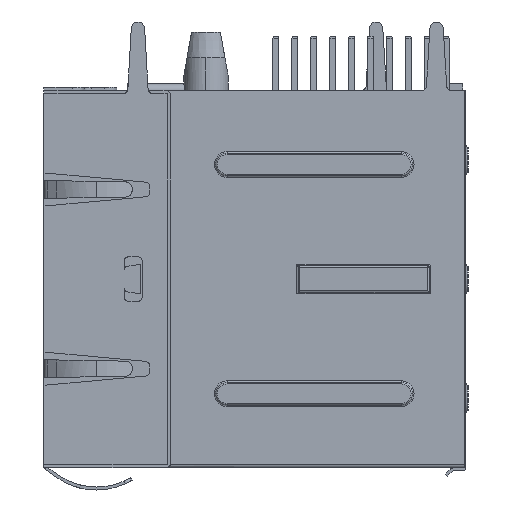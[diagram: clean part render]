
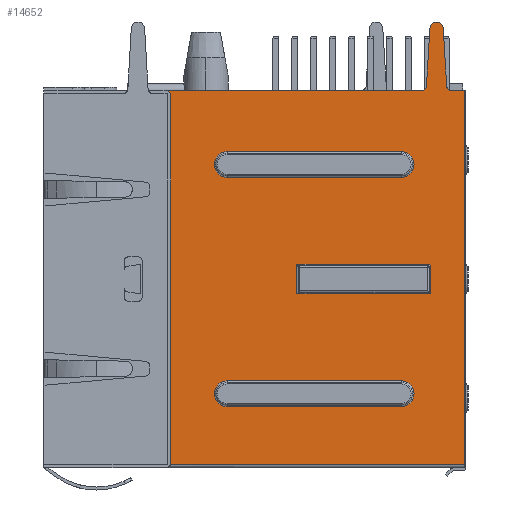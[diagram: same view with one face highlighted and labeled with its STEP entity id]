
A CAD part, left-side view. The second image highlights one B-rep face of the part: STEP entity #14652.
In plain terms, the highlighted planar face has unit normal (-1, 0, 0).
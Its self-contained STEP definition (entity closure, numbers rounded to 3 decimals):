
#956=DIRECTION('',(0.,1.,0.));
#957=VECTOR('',#956,17.191);
#958=CARTESIAN_POINT('',(-8.605,-11.151,12.67));
#959=LINE('',#958,#957);
#960=CARTESIAN_POINT('',(-8.605,-11.151,12.97));
#961=DIRECTION('',(1.,0.,0.));
#962=DIRECTION('',(0.,-0.998,-0.059));
#963=AXIS2_PLACEMENT_3D('',#960,#961,#962);
#965=DIRECTION('',(0.,0.059,-0.998));
#966=VECTOR('',#965,3.901);
#967=CARTESIAN_POINT('',(-8.605,-11.681,16.847));
#968=LINE('',#967,#966);
#969=CARTESIAN_POINT('',(-8.605,-12.13,16.82));
#970=DIRECTION('',(-1.,0.,0.));
#971=DIRECTION('',(0.,0.,1.));
#972=AXIS2_PLACEMENT_3D('',#969,#970,#971);
#974=CARTESIAN_POINT('',(-8.605,-12.13,16.82));
#975=DIRECTION('',(-1.,0.,0.));
#976=DIRECTION('',(0.,-0.998,0.059));
#977=AXIS2_PLACEMENT_3D('',#974,#975,#976);
#979=DIRECTION('',(0.,0.059,0.998));
#980=VECTOR('',#979,3.901);
#981=CARTESIAN_POINT('',(-8.605,-12.81,12.952));
#982=LINE('',#981,#980);
#983=CARTESIAN_POINT('',(-8.605,-13.109,12.97));
#984=DIRECTION('',(1.,0.,0.));
#985=DIRECTION('',(0.,0.,-1.));
#986=AXIS2_PLACEMENT_3D('',#983,#984,#985);
#988=DIRECTION('',(0.,1.,0.));
#989=VECTOR('',#988,0.891);
#990=CARTESIAN_POINT('',(-8.605,-14.,12.67));
#991=LINE('',#990,#989);
#992=CARTESIAN_POINT('',(-8.605,6.04,-12.37));
#993=DIRECTION('',(1.,0.,0.));
#994=DIRECTION('',(0.,-1.,0.));
#995=AXIS2_PLACEMENT_3D('',#992,#993,#994);
#997=CARTESIAN_POINT('',(-8.605,6.04,12.37));
#998=DIRECTION('',(1.,0.,0.));
#999=DIRECTION('',(0.,0.,1.));
#1000=AXIS2_PLACEMENT_3D('',#997,#998,#999);
#1002=CARTESIAN_POINT('',(-8.605,-11.723,
0.9));
#1003=CARTESIAN_POINT('',(-8.605,-11.729,
0.89));
#1004=CARTESIAN_POINT('',(-8.605,-11.739,
0.869));
#1005=CARTESIAN_POINT('',(-8.605,-11.748,
0.835));
#1006=CARTESIAN_POINT('',(-8.605,-11.75,
0.812));
#1007=CARTESIAN_POINT('',(-8.605,-11.75,
0.8));
#1009=CARTESIAN_POINT('',(-8.605,-11.55,0.8));
#1010=DIRECTION('',(1.,0.,0.));
#1011=DIRECTION('',(0.,0.,1.));
#1012=AXIS2_PLACEMENT_3D('',#1009,#1010,#1011);
#1014=CARTESIAN_POINT('',(-8.605,1.94,7.7));
#1015=DIRECTION('',(1.,0.,0.));
#1016=DIRECTION('',(0.,0.,-1.));
#1017=AXIS2_PLACEMENT_3D('',#1014,#1015,#1016);
#1019=CARTESIAN_POINT('',(-8.605,-9.76,7.7));
#1020=DIRECTION('',(1.,0.,0.));
#1021=DIRECTION('',(0.,0.,1.));
#1022=AXIS2_PLACEMENT_3D('',#1019,#1020,#1021);
#1024=CARTESIAN_POINT('',(-8.605,1.94,-7.7));
#1025=DIRECTION('',(1.,0.,0.));
#1026=DIRECTION('',(0.,0.,-1.));
#1027=AXIS2_PLACEMENT_3D('',#1024,#1025,#1026);
#1029=CARTESIAN_POINT('',(-8.605,-9.76,-7.7));
#1030=DIRECTION('',(1.,0.,0.));
#1031=DIRECTION('',(0.,0.,1.));
#1032=AXIS2_PLACEMENT_3D('',#1029,#1030,#1031);
#1054=DIRECTION('',(0.,0.,1.));
#1055=VECTOR('',#1054,25.14);
#1056=CARTESIAN_POINT('',(-8.605,-14.,-12.47));
#1057=LINE('',#1056,#1055);
#2668=DIRECTION('',(0.,-1.,0.));
#2669=VECTOR('',#2668,19.757);
#2670=CARTESIAN_POINT('',(-8.605,5.757,-12.47));
#2671=LINE('',#2670,#2669);
#2680=DIRECTION('',(0.,0.,-1.));
#2681=VECTOR('',#2680,24.74);
#2682=CARTESIAN_POINT('',(-8.605,5.74,12.37));
#2683=LINE('',#2682,#2681);
#9269=DIRECTION('',(0.,0.,1.));
#9270=VECTOR('',#9269,1.8);
#9271=CARTESIAN_POINT('',(-8.605,-11.75,-1.));
#9272=LINE('',#9271,#9270);
#9273=DIRECTION('',(0.,-1.,0.));
#9274=VECTOR('',#9273,9.);
#9275=CARTESIAN_POINT('',(-8.605,-2.75,-1.));
#9276=LINE('',#9275,#9274);
#9285=DIRECTION('',(0.,0.,-1.));
#9286=VECTOR('',#9285,2.);
#9287=CARTESIAN_POINT('',(-8.605,-2.75,
1.));
#9288=LINE('',#9287,#9286);
#9315=DIRECTION('',(0.,1.,0.));
#9316=VECTOR('',#9315,8.8);
#9317=CARTESIAN_POINT('',(-8.605,-11.55,1.));
#9318=LINE('',#9317,#9316);
#9447=DIRECTION('',(0.,1.,0.));
#9448=VECTOR('',#9447,11.7);
#9449=CARTESIAN_POINT('',(-8.605,-9.76,8.56));
#9450=LINE('',#9449,#9448);
#9461=DIRECTION('',(0.,-1.,0.));
#9462=VECTOR('',#9461,11.7);
#9463=CARTESIAN_POINT('',(-8.605,1.94,6.84));
#9464=LINE('',#9463,#9462);
#9536=DIRECTION('',(0.,1.,0.));
#9537=VECTOR('',#9536,11.7);
#9538=CARTESIAN_POINT('',(-8.605,-9.76,-6.84));
#9539=LINE('',#9538,#9537);
#9550=DIRECTION('',(0.,-1.,0.));
#9551=VECTOR('',#9550,11.7);
#9552=CARTESIAN_POINT('',(-8.605,1.94,-8.56));
#9553=LINE('',#9552,#9551);
#11309=CARTESIAN_POINT('',(-8.605,-13.109,12.67));
#11311=VERTEX_POINT('',#11309);
#11315=CARTESIAN_POINT('',(-8.605,-11.151,12.67));
#11316=VERTEX_POINT('',#11315);
#11317=CARTESIAN_POINT('',(-8.605,6.04,12.67));
#11318=VERTEX_POINT('',#11317);
#11389=CARTESIAN_POINT('',(-8.605,-14.,12.67));
#11390=VERTEX_POINT('',#11389);
#11416=CARTESIAN_POINT('',(-8.605,-12.81,12.952));
#11418=VERTEX_POINT('',#11416);
#11421=CARTESIAN_POINT('',(-8.605,-12.579,16.847));
#11422=VERTEX_POINT('',#11421);
#11429=CARTESIAN_POINT('',(-8.605,-12.13,17.27));
#11430=VERTEX_POINT('',#11429);
#11431=CARTESIAN_POINT('',(-8.605,-11.45,12.952));
#11432=VERTEX_POINT('',#11431);
#11433=CARTESIAN_POINT('',(-8.605,-11.681,16.847));
#11434=VERTEX_POINT('',#11433);
#11435=CARTESIAN_POINT('',(-8.605,-14.,-12.47));
#11436=VERTEX_POINT('',#11435);
#11437=CARTESIAN_POINT('',(-8.605,5.757,-12.47));
#11438=VERTEX_POINT('',#11437);
#11439=CARTESIAN_POINT('',(-8.605,5.74,-12.37));
#11440=VERTEX_POINT('',#11439);
#11441=CARTESIAN_POINT('',(-8.605,5.74,12.37));
#11442=VERTEX_POINT('',#11441);
#11443=CARTESIAN_POINT('',(-8.605,-11.75,-1.));
#11444=CARTESIAN_POINT('',(-8.605,-11.75,
0.8));
#11445=VERTEX_POINT('',#11443);
#11446=VERTEX_POINT('',#11444);
#11447=VERTEX_POINT('',#1002);
#11448=CARTESIAN_POINT('',(-8.605,-11.55,
1.));
#11449=VERTEX_POINT('',#11448);
#11450=CARTESIAN_POINT('',(-8.605,-2.75,
1.));
#11451=VERTEX_POINT('',#11450);
#11452=CARTESIAN_POINT('',(-8.605,-2.75,-1.));
#11453=VERTEX_POINT('',#11452);
#11454=CARTESIAN_POINT('',(-8.605,1.94,6.84));
#11455=CARTESIAN_POINT('',(-8.605,1.94,8.56));
#11456=VERTEX_POINT('',#11454);
#11457=VERTEX_POINT('',#11455);
#11458=CARTESIAN_POINT('',(-8.605,-9.76,6.84));
#11459=VERTEX_POINT('',#11458);
#11460=CARTESIAN_POINT('',(-8.605,-9.76,8.56));
#11461=VERTEX_POINT('',#11460);
#11462=CARTESIAN_POINT('',(-8.605,1.94,-8.56));
#11463=CARTESIAN_POINT('',(-8.605,1.94,-6.84));
#11464=VERTEX_POINT('',#11462);
#11465=VERTEX_POINT('',#11463);
#11466=CARTESIAN_POINT('',(-8.605,-9.76,-8.56));
#11467=VERTEX_POINT('',#11466);
#11468=CARTESIAN_POINT('',(-8.605,-9.76,-6.84));
#11469=VERTEX_POINT('',#11468);
#14590=CARTESIAN_POINT('',(-8.605,-3.98,2.4));
#14591=DIRECTION('',(1.,0.,0.));
#14592=DIRECTION('',(0.,0.,1.));
#14593=AXIS2_PLACEMENT_3D('',#14590,#14591,#14592);
#14594=PLANE('',#14593);
#14595=ORIENTED_EDGE('',*,*,#14411,.F.);
#14597=ORIENTED_EDGE('',*,*,#14596,.F.);
#14599=ORIENTED_EDGE('',*,*,#14598,.F.);
#14601=ORIENTED_EDGE('',*,*,#14600,.F.);
#14602=ORIENTED_EDGE('',*,*,#14583,.F.);
#14603=ORIENTED_EDGE('',*,*,#14550,.F.);
#14604=ORIENTED_EDGE('',*,*,#14537,.F.);
#14605=ORIENTED_EDGE('',*,*,#14494,.F.);
#14607=ORIENTED_EDGE('',*,*,#14606,.F.);
#14609=ORIENTED_EDGE('',*,*,#14608,.F.);
#14611=ORIENTED_EDGE('',*,*,#14610,.F.);
#14613=ORIENTED_EDGE('',*,*,#14612,.F.);
#14615=ORIENTED_EDGE('',*,*,#14614,.F.);
#14616=EDGE_LOOP('',(#14595,#14597,#14599,#14601,#14602,#14603,#14604,#14605,
#14607,#14609,#14611,#14613,#14615));
#14617=FACE_OUTER_BOUND('',#14616,.F.);
#14619=ORIENTED_EDGE('',*,*,#14618,.T.);
#14621=ORIENTED_EDGE('',*,*,#14620,.F.);
#14623=ORIENTED_EDGE('',*,*,#14622,.F.);
#14625=ORIENTED_EDGE('',*,*,#14624,.T.);
#14627=ORIENTED_EDGE('',*,*,#14626,.T.);
#14629=ORIENTED_EDGE('',*,*,#14628,.T.);
#14630=EDGE_LOOP('',(#14619,#14621,#14623,#14625,#14627,#14629));
#14631=FACE_BOUND('',#14630,.F.);
#14633=ORIENTED_EDGE('',*,*,#14632,.F.);
#14635=ORIENTED_EDGE('',*,*,#14634,.T.);
#14637=ORIENTED_EDGE('',*,*,#14636,.F.);
#14639=ORIENTED_EDGE('',*,*,#14638,.T.);
#14640=EDGE_LOOP('',(#14633,#14635,#14637,#14639));
#14641=FACE_BOUND('',#14640,.F.);
#14643=ORIENTED_EDGE('',*,*,#14642,.F.);
#14645=ORIENTED_EDGE('',*,*,#14644,.T.);
#14647=ORIENTED_EDGE('',*,*,#14646,.F.);
#14649=ORIENTED_EDGE('',*,*,#14648,.T.);
#14650=EDGE_LOOP('',(#14643,#14645,#14647,#14649));
#14651=FACE_BOUND('',#14650,.F.);
#14652=ADVANCED_FACE('',(#14617,#14631,#14641,#14651),#14594,.F.);
#964=CIRCLE('',#963,0.3);
#973=CIRCLE('',#972,0.45);
#978=CIRCLE('',#977,0.45);
#987=CIRCLE('',#986,0.3);
#996=CIRCLE('',#995,0.3);
#1001=CIRCLE('',#1000,0.3);
#1008=B_SPLINE_CURVE_WITH_KNOTS('',3,(#1002,#1003,#1004,#1005,#1006,#1007),
.UNSPECIFIED.,.F.,.F.,(4,1,1,4),(0.,0.333,0.667,1.),
.UNSPECIFIED.);
#1013=CIRCLE('',#1012,0.2);
#1018=CIRCLE('',#1017,0.86);
#1023=CIRCLE('',#1022,0.86);
#1028=CIRCLE('',#1027,0.86);
#1033=CIRCLE('',#1032,0.86);
#14411=EDGE_CURVE('',#11316,#11318,#959,.T.);
#14494=EDGE_CURVE('',#11390,#11311,#991,.T.);
#14537=EDGE_CURVE('',#11311,#11418,#987,.T.);
#14550=EDGE_CURVE('',#11418,#11422,#982,.T.);
#14583=EDGE_CURVE('',#11422,#11430,#978,.T.);
#14596=EDGE_CURVE('',#11432,#11316,#964,.T.);
#14598=EDGE_CURVE('',#11434,#11432,#968,.T.);
#14600=EDGE_CURVE('',#11430,#11434,#973,.T.);
#14606=EDGE_CURVE('',#11436,#11390,#1057,.T.);
#14608=EDGE_CURVE('',#11438,#11436,#2671,.T.);
#14610=EDGE_CURVE('',#11440,#11438,#996,.T.);
#14612=EDGE_CURVE('',#11442,#11440,#2683,.T.);
#14614=EDGE_CURVE('',#11318,#11442,#1001,.T.);
#14618=EDGE_CURVE('',#11445,#11446,#9272,.T.);
#14620=EDGE_CURVE('',#11447,#11446,#1008,.T.);
#14622=EDGE_CURVE('',#11449,#11447,#1013,.T.);
#14624=EDGE_CURVE('',#11449,#11451,#9318,.T.);
#14626=EDGE_CURVE('',#11451,#11453,#9288,.T.);
#14628=EDGE_CURVE('',#11453,#11445,#9276,.T.);
#14632=EDGE_CURVE('',#11456,#11457,#1018,.T.);
#14634=EDGE_CURVE('',#11456,#11459,#9464,.T.);
#14636=EDGE_CURVE('',#11461,#11459,#1023,.T.);
#14638=EDGE_CURVE('',#11461,#11457,#9450,.T.);
#14642=EDGE_CURVE('',#11464,#11465,#1028,.T.);
#14644=EDGE_CURVE('',#11464,#11467,#9553,.T.);
#14646=EDGE_CURVE('',#11469,#11467,#1033,.T.);
#14648=EDGE_CURVE('',#11469,#11465,#9539,.T.);
